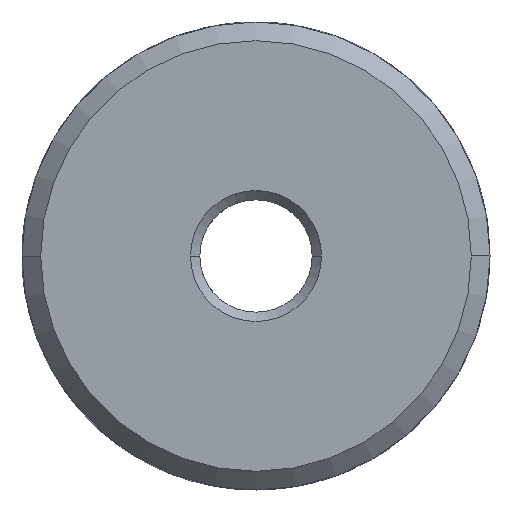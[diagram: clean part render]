
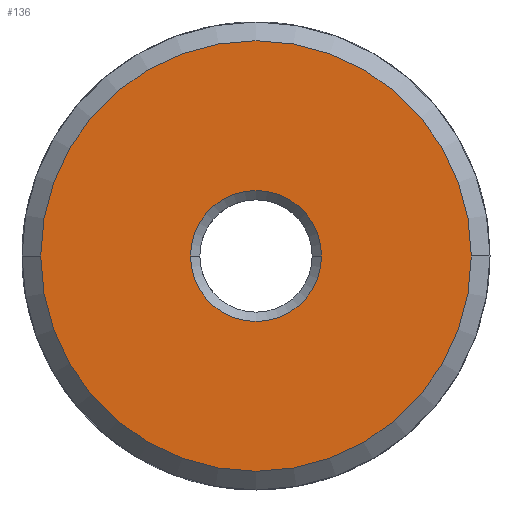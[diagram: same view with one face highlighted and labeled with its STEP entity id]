
A CAD part, left-side view. The second image highlights one B-rep face of the part: STEP entity #136.
In plain terms, the highlighted planar face has unit normal (-1, 0, 0).
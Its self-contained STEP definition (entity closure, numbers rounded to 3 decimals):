
#136 = ADVANCED_FACE( '', ( #277, #278 ), #279, .T. );
#277 = FACE_BOUND( '', #419, .T. );
#278 = FACE_OUTER_BOUND( '', #420, .T. );
#279 = PLANE( '', #421 );
#419 = EDGE_LOOP( '', ( #965, #966 ) );
#420 = EDGE_LOOP( '', ( #967, #968 ) );
#421 = AXIS2_PLACEMENT_3D( '', #969, #970, #971 );
#965 = ORIENTED_EDGE( '', *, *, #1148, .F. );
#966 = ORIENTED_EDGE( '', *, *, #995, .F. );
#967 = ORIENTED_EDGE( '', *, *, #975, .T. );
#968 = ORIENTED_EDGE( '', *, *, #1153, .T. );
#969 = CARTESIAN_POINT( '', ( 0., 7.5, 0. ) );
#970 = DIRECTION( '', ( -1., 0., 0. ) );
#971 = DIRECTION( '', ( 0., 1., 0. ) );
#975 = EDGE_CURVE( '', #1155, #1159, #1161, .T. );
#995 = EDGE_CURVE( '', #1198, #1196, #1200, .T. );
#1148 = EDGE_CURVE( '', #1196, #1198, #1448, .T. );
#1153 = EDGE_CURVE( '', #1159, #1155, #1453, .T. );
#1155 = VERTEX_POINT( '', #1455 );
#1159 = VERTEX_POINT( '', #1460 );
#1161 = CIRCLE( '', #1463, 11.5 );
#1196 = VERTEX_POINT( '', #1593 );
#1198 = VERTEX_POINT( '', #1596 );
#1200 = CIRCLE( '', #1599, 3.5 );
#1448 = CIRCLE( '', #2324, 3.5 );
#1453 = CIRCLE( '', #2329, 11.5 );
#1455 = CARTESIAN_POINT( '', ( 0., 11.5, 0. ) );
#1460 = CARTESIAN_POINT( '', ( 0., -11.5, 0. ) );
#1463 = AXIS2_PLACEMENT_3D( '', #2335, #2336, #2337 );
#1593 = CARTESIAN_POINT( '', ( 0., 3.5, 0. ) );
#1596 = CARTESIAN_POINT( '', ( 0., -3.5, 0. ) );
#1599 = AXIS2_PLACEMENT_3D( '', #2365, #2366, #2367 );
#2324 = AXIS2_PLACEMENT_3D( '', #2654, #2655, #2656 );
#2329 = AXIS2_PLACEMENT_3D( '', #2669, #2670, #2671 );
#2335 = CARTESIAN_POINT( '', ( 0., 0., 0. ) );
#2336 = DIRECTION( '', ( -1., 0., 0. ) );
#2337 = DIRECTION( '', ( 0., 1., 0. ) );
#2365 = CARTESIAN_POINT( '', ( 0., 0., 0. ) );
#2366 = DIRECTION( '', ( -1., 0., 0. ) );
#2367 = DIRECTION( '', ( 0., 1., 0. ) );
#2654 = CARTESIAN_POINT( '', ( 0., 0., 0. ) );
#2655 = DIRECTION( '', ( -1., 0., 0. ) );
#2656 = DIRECTION( '', ( 0., 1., 0. ) );
#2669 = CARTESIAN_POINT( '', ( 0., 0., 0. ) );
#2670 = DIRECTION( '', ( -1., 0., 0. ) );
#2671 = DIRECTION( '', ( 0., 1., 0. ) );
